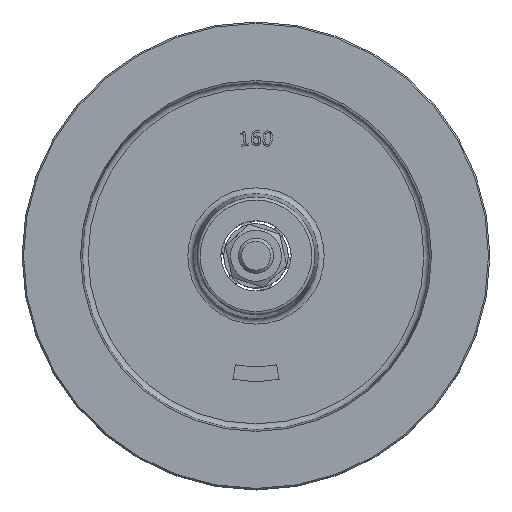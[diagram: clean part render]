
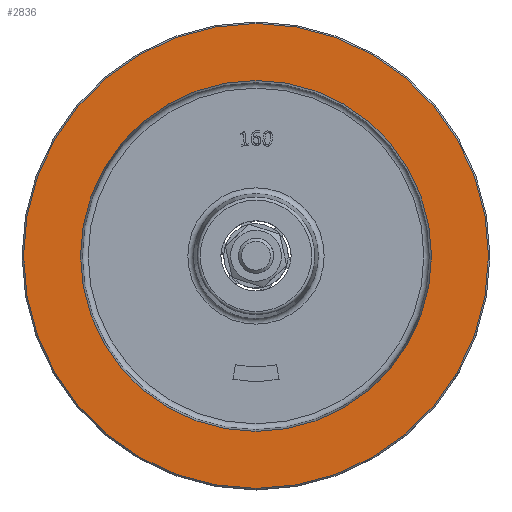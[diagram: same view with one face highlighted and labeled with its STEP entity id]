
A CAD part, top view. The second image highlights one B-rep face of the part: STEP entity #2836.
In plain terms, the highlighted planar face has unit normal (0, 0, 1) as drawn and (-1, 0, 0) by its records, which use the part's own axes.
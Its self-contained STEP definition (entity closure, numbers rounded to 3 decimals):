
#208=CIRCLE('',#3159,60.);
#222=CIRCLE('',#3186,79.5);
#349=FACE_BOUND('',#706,.T.);
#400=PLANE('',#3187);
#519=FACE_OUTER_BOUND('',#705,.T.);
#705=EDGE_LOOP('',(#2287));
#706=EDGE_LOOP('',(#2288));
#1342=VERTEX_POINT('',#4985);
#1354=VERTEX_POINT('',#5032);
#1662=EDGE_CURVE('',#1342,#1342,#208,.T.);
#1684=EDGE_CURVE('',#1354,#1354,#222,.T.);
#2287=ORIENTED_EDGE('',*,*,#1684,.T.);
#2288=ORIENTED_EDGE('',*,*,#1662,.F.);
#2836=ADVANCED_FACE('',(#519,#349),#400,.T.);
#3159=AXIS2_PLACEMENT_3D('',#4986,#3615,#3616);
#3186=AXIS2_PLACEMENT_3D('',#5033,#3677,#3678);
#3187=AXIS2_PLACEMENT_3D('',#5035,#3680,#3681);
#3615=DIRECTION('center_axis',(-1.,0.,0.));
#3616=DIRECTION('ref_axis',(0.,-1.,0.));
#3677=DIRECTION('center_axis',(-1.,0.,0.));
#3678=DIRECTION('ref_axis',(0.,-1.,0.));
#3680=DIRECTION('center_axis',(-1.,0.,0.));
#3681=DIRECTION('ref_axis',(0.,0.,1.));
#4985=CARTESIAN_POINT('',(-13.,60.,0.));
#4986=CARTESIAN_POINT('Origin',(-13.,0.,0.));
#5032=CARTESIAN_POINT('',(-13.,79.5,0.));
#5033=CARTESIAN_POINT('Origin',(-13.,0.,0.));
#5035=CARTESIAN_POINT('Origin',(-13.,-69.75,0.));
